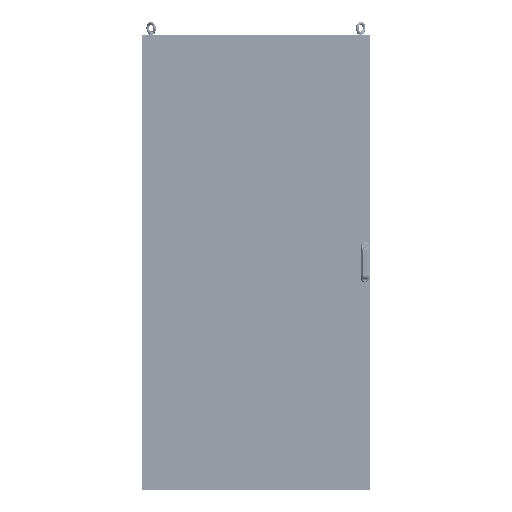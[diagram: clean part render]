
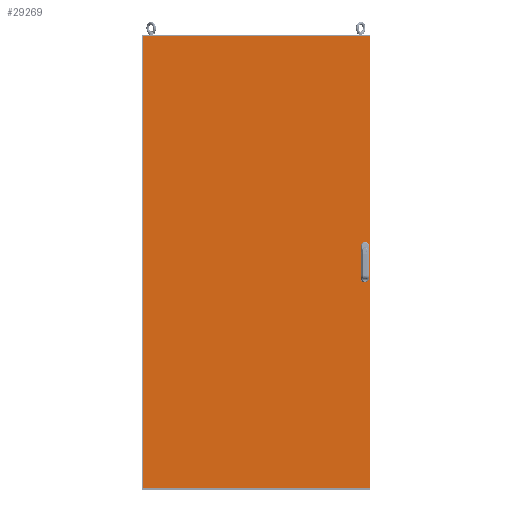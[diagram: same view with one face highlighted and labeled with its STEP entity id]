
A CAD part, front view. The second image highlights one B-rep face of the part: STEP entity #29269.
In plain terms, the highlighted planar face has unit normal (0, -1, 0).
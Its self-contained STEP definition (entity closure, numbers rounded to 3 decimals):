
#7646=ORIENTED_EDGE('',*,*,#12870,.T.);
#7647=ORIENTED_EDGE('',*,*,#12871,.T.);
#7648=ORIENTED_EDGE('',*,*,#12872,.T.);
#7649=ORIENTED_EDGE('',*,*,#12873,.T.);
#7650=ORIENTED_EDGE('',*,*,#12874,.T.);
#7651=ORIENTED_EDGE('',*,*,#12875,.T.);
#7652=ORIENTED_EDGE('',*,*,#12876,.T.);
#7653=ORIENTED_EDGE('',*,*,#12877,.T.);
#7654=ORIENTED_EDGE('',*,*,#12878,.F.);
#7655=ORIENTED_EDGE('',*,*,#12879,.F.);
#7656=ORIENTED_EDGE('',*,*,#12880,.F.);
#7657=ORIENTED_EDGE('',*,*,#12881,.F.);
#12870=EDGE_CURVE('',#15946,#15947,#18836,.T.);
#12871=EDGE_CURVE('',#15947,#15948,#18837,.T.);
#12872=EDGE_CURVE('',#15948,#15949,#18838,.T.);
#12873=EDGE_CURVE('',#15949,#15946,#18839,.T.);
#12874=EDGE_CURVE('',#15950,#15951,#18840,.T.);
#12875=EDGE_CURVE('',#15951,#15952,#18841,.T.);
#12876=EDGE_CURVE('',#15952,#15953,#18842,.T.);
#12877=EDGE_CURVE('',#15953,#15950,#18843,.T.);
#12878=EDGE_CURVE('',#15954,#15955,#18844,.T.);
#12879=EDGE_CURVE('',#15956,#15954,#18845,.T.);
#12880=EDGE_CURVE('',#15957,#15956,#18846,.T.);
#12881=EDGE_CURVE('',#15955,#15957,#18847,.T.);
#15946=VERTEX_POINT('',#49403);
#15947=VERTEX_POINT('',#49404);
#15948=VERTEX_POINT('',#49406);
#15949=VERTEX_POINT('',#49408);
#15950=VERTEX_POINT('',#49411);
#15951=VERTEX_POINT('',#49412);
#15952=VERTEX_POINT('',#49414);
#15953=VERTEX_POINT('',#49416);
#15954=VERTEX_POINT('',#49419);
#15955=VERTEX_POINT('',#49420);
#15956=VERTEX_POINT('',#49422);
#15957=VERTEX_POINT('',#49424);
#18836=LINE('',#49402,#21527);
#18837=LINE('',#49405,#21528);
#18838=LINE('',#49407,#21529);
#18839=LINE('',#49409,#21530);
#18840=LINE('',#49410,#21531);
#18841=LINE('',#49413,#21532);
#18842=LINE('',#49415,#21533);
#18843=LINE('',#49417,#21534);
#18844=LINE('',#49418,#21535);
#18845=LINE('',#49421,#21536);
#18846=LINE('',#49423,#21537);
#18847=LINE('',#49425,#21538);
#21527=VECTOR('',#40825,1000.);
#21528=VECTOR('',#40826,1000.);
#21529=VECTOR('',#40827,1000.);
#21530=VECTOR('',#40828,1000.);
#21531=VECTOR('',#40829,1000.);
#21532=VECTOR('',#40830,1000.);
#21533=VECTOR('',#40831,1000.);
#21534=VECTOR('',#40832,1000.);
#21535=VECTOR('',#40833,1000.);
#21536=VECTOR('',#40834,1000.);
#21537=VECTOR('',#40835,1000.);
#21538=VECTOR('',#40836,1000.);
#23788=EDGE_LOOP('',(#7646,#7647,#7648,#7649));
#23789=EDGE_LOOP('',(#7650,#7651,#7652,#7653));
#23790=EDGE_LOOP('',(#7654,#7655,#7656,#7657));
#26249=FACE_BOUND('',#23788,.T.);
#26250=FACE_BOUND('',#23789,.T.);
#26251=FACE_BOUND('',#23790,.T.);
#27944=PLANE('',#34448);
#29269=ADVANCED_FACE('',(#26249,#26250,#26251),#27944,.F.);
#34448=AXIS2_PLACEMENT_3D('',#49401,#40823,#40824);
#40823=DIRECTION('',(0.,1.,0.));
#40824=DIRECTION('',(-1.,0.,0.));
#40825=DIRECTION('',(-1.,0.,0.));
#40826=DIRECTION('',(0.,0.,1.));
#40827=DIRECTION('',(1.,0.,0.));
#40828=DIRECTION('',(0.,0.,-1.));
#40829=DIRECTION('',(-1.,0.,0.));
#40830=DIRECTION('',(0.,0.,1.));
#40831=DIRECTION('',(1.,0.,0.));
#40832=DIRECTION('',(0.,0.,-1.));
#40833=DIRECTION('',(0.,0.,1.));
#40834=DIRECTION('',(-1.,0.,0.));
#40835=DIRECTION('',(0.,0.,-1.));
#40836=DIRECTION('',(1.,0.,0.));
#49401=CARTESIAN_POINT('',(0.,-13.25,0.));
#49402=CARTESIAN_POINT('',(490.5,-13.25,25.));
#49403=CARTESIAN_POINT('',(490.5,-13.25,25.));
#49404=CARTESIAN_POINT('',(465.5,-13.25,25.));
#49405=CARTESIAN_POINT('',(465.5,-13.25,25.));
#49406=CARTESIAN_POINT('',(465.5,-13.25,75.));
#49407=CARTESIAN_POINT('',(465.5,-13.25,75.));
#49408=CARTESIAN_POINT('',(490.5,-13.25,75.));
#49409=CARTESIAN_POINT('',(490.5,-13.25,75.));
#49410=CARTESIAN_POINT('',(490.5,-13.25,-75.));
#49411=CARTESIAN_POINT('',(490.5,-13.25,-75.));
#49412=CARTESIAN_POINT('',(465.5,-13.25,-75.));
#49413=CARTESIAN_POINT('',(465.5,-13.25,-75.));
#49414=CARTESIAN_POINT('',(465.5,-13.25,-25.));
#49415=CARTESIAN_POINT('',(465.5,-13.25,-25.));
#49416=CARTESIAN_POINT('',(490.5,-13.25,-25.));
#49417=CARTESIAN_POINT('',(490.5,-13.25,-25.));
#49418=CARTESIAN_POINT('',(-499.5,-13.25,-995.));
#49419=CARTESIAN_POINT('',(-499.5,-13.25,-995.));
#49420=CARTESIAN_POINT('',(-499.5,-13.25,995.));
#49421=CARTESIAN_POINT('',(499.5,-13.25,-995.));
#49422=CARTESIAN_POINT('',(499.5,-13.25,-995.));
#49423=CARTESIAN_POINT('',(499.5,-13.25,995.));
#49424=CARTESIAN_POINT('',(499.5,-13.25,995.));
#49425=CARTESIAN_POINT('',(-499.5,-13.25,995.));
